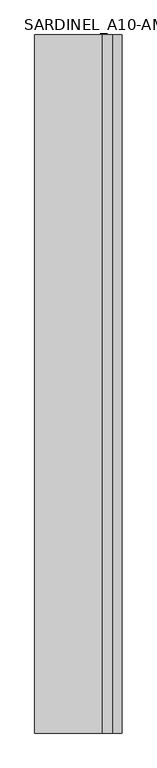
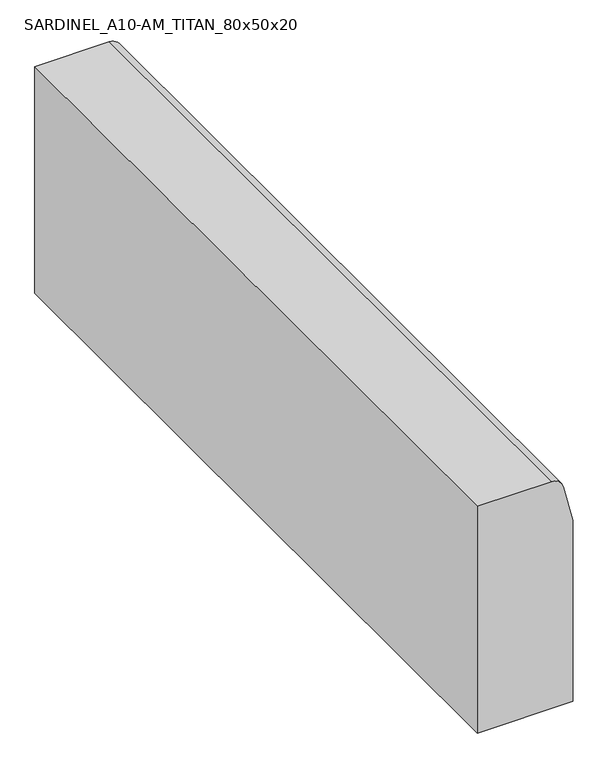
"""IFC4 building model written with IfcOpenShell, lengths in millimetres: railing geometry, SARDINEL_A10-AM_TITAN_80x50x20."""

from ifc_helpers import new_model, si_unit, point, frame, frame_2d, origin, place, context, project, spatial, polyline, circle_curve, trimmed, segment, composite_curve, outline, extrude, source, transform, mapped, element, save


def sardinel_a10_am_titan_80x50x20_00f8a182(model_context):
    return source(origin(), model_context, "Body", "SweptSolid", [
        extrude(outline(composite_curve([segment(polyline([(500.0, -2843.8343252), (0.0, -2843.8343252), (0.0, -2643.8343252), (400.0, -2643.8343252), (481.0633906, -2664.1001728)]), True, "CONTINUOUS"), segment(trimmed(circle_curve(frame_2d((475.0, -2688.3537353)), 25.0), [point((481.0633906, -2664.1001728))], [point((500.0, -2688.3537353))], False, "CARTESIAN"), True, "CONTINUOUS"), segment(polyline([(500.0, -2688.3537353), (500.0, -2843.8343252)]), True, "CONTINUOUS")], self_intersect=False)), frame((0.0, 1638.5861748, 0.0), z_axis=(0.0, 1.0, 0.0), x_axis=(0.0, 0.0, 1.0)), (0.0, 0.0, 1.0), 1600.0),
    ])


if __name__ == "__main__":
    model = new_model("IFC4")
    model_context = context("Model", 3, world=origin())
    ifc_project = project(units=[si_unit("LENGTHUNIT", "METRE", prefix="MILLI")], contexts=[model_context])
    site = spatial("IfcSite", under=ifc_project)
    building = spatial("IfcBuilding", under=site)
    placement = place(None, origin())
    sardinel_a10_am_titan_80x50x20_shape = sardinel_a10_am_titan_80x50x20_00f8a182(model_context)
    element("IfcRailing", 1, ObjectType="SARDINEL_A10-AM_TITAN_80x50x20", at=placement, inside=building, context=model_context, shape_type="MappedRepresentation", body=[
        mapped(sardinel_a10_am_titan_80x50x20_shape, transform((0.0, 0.0, 0.0), x_axis=(1.0, 0.0, 0.0), y_axis=(0.0, 1.0, 0.0), z_axis=(0.0, 0.0, 1.0))),
    ])
    save(model, "model.ifc")
